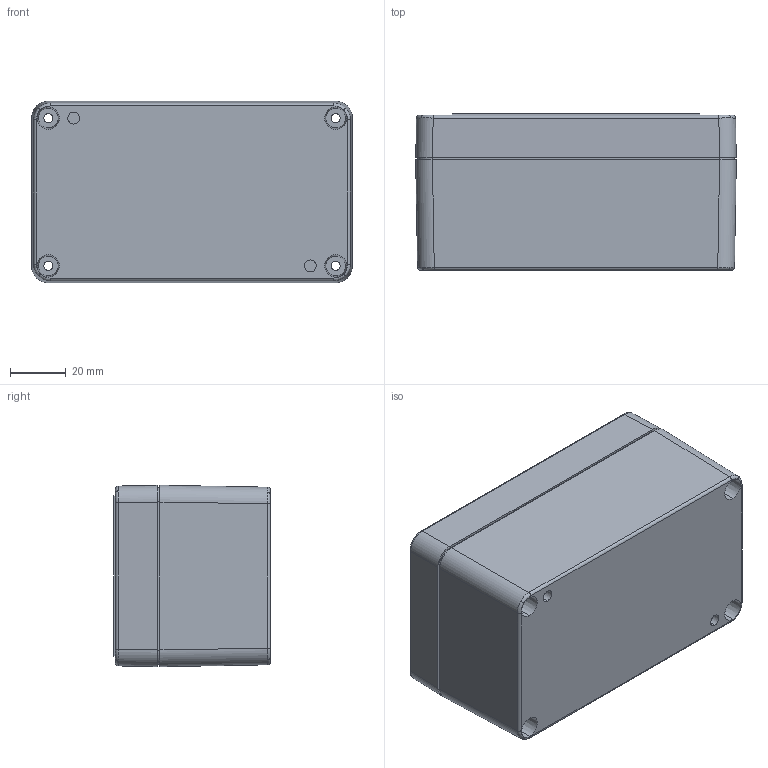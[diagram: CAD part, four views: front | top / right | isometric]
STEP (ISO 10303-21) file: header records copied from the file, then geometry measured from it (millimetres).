
FILE_DESCRIPTION (( 'STEP AP203' ), '1' );
FILE_NAME ('SE-035.STEP', '2019-06-11T14:10:15', ( '' ), ( '' ), 'SwSTEP 2.0', 'SolidWorks 2018', '' );
FILE_SCHEMA (( 'CONFIG_CONTROL_DESIGN' ));
Length unit declared in the file: millimetre
Products named in the file (3): SE-035; SE-035-P-2; SE-035-P-1
Assembly tree (2 placements, depth 2):
  SE-035
    SE-035-P-1
    SE-035-P-2
Bounding box: 115.17 x 56.2 x 65.17 mm (x, y, z)
Volume: 106231.8 mm3; surface area: 78949.5 mm2
Topology: 2 solids, 2 shells, 448 faces, 1196 edges, 792 vertices
Faces by surface type: plane 232, cylinder 104, cone 72, bspline 40
Entity records: 15613 total; most frequent: CARTESIAN_POINT 4447, ORIENTED_EDGE 2392, DIRECTION 2116, EDGE_CURVE 1196, VERTEX_POINT 792, AXIS2_PLACEMENT_3D 717, VECTOR 682, LINE 682
